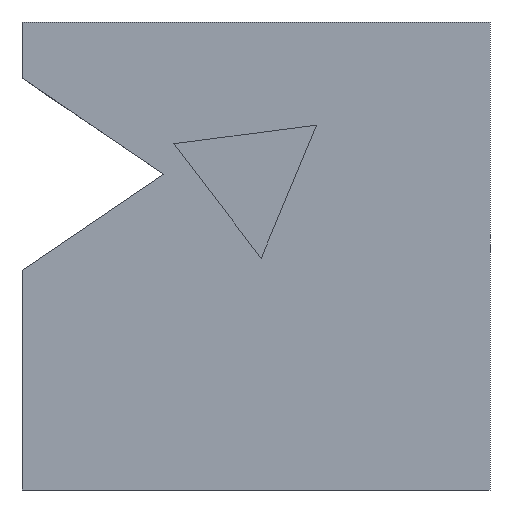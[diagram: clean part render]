
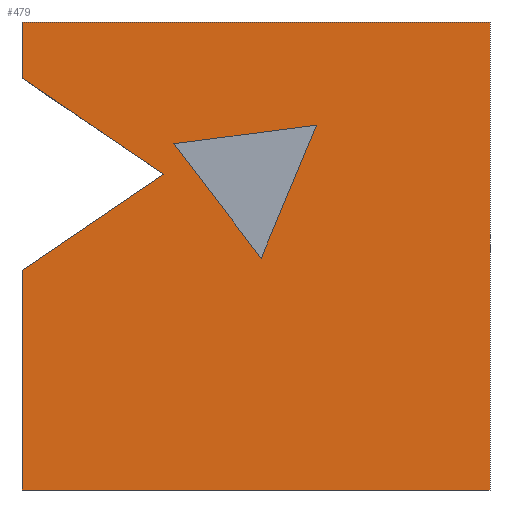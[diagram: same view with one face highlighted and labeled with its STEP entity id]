
A CAD part, front view. The second image highlights one B-rep face of the part: STEP entity #479.
In plain terms, the highlighted planar face has unit normal (0, -1, 0).
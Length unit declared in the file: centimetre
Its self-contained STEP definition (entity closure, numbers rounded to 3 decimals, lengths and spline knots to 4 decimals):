
#2 = ORIENTED_EDGE ( 'NONE', *, *, #276, .T. ) ;
#13 = LINE ( 'NONE', #549, #144 ) ;
#17 = EDGE_CURVE ( 'NONE', #418, #359, #523, .T. ) ;
#24 = FACE_OUTER_BOUND ( 'NONE', #452, .T. ) ;
#34 = EDGE_CURVE ( 'NONE', #188, #131, #358, .T. ) ;
#41 = DIRECTION ( 'NONE',  ( -0.992, 0., -0.129 ) ) ;
#51 = LINE ( 'NONE', #281, #416 ) ;
#63 = DIRECTION ( 'NONE',  ( 0., 0., 1. ) ) ;
#67 = DIRECTION ( 'NONE',  ( 0., 1., 0. ) ) ;
#82 = ORIENTED_EDGE ( 'NONE', *, *, #34, .T. ) ;
#92 = CARTESIAN_POINT ( 'NONE',  ( 0., 0., 469.5949 ) ) ;
#96 = VECTOR ( 'NONE', #201, 100. ) ;
#100 = CARTESIAN_POINT ( 'NONE',  ( 324.0875, 0., 739.8022 ) ) ;
#109 = VECTOR ( 'NONE', #370, 100. ) ;
#118 = EDGE_CURVE ( 'NONE', #131, #225, #121, .T. ) ;
#120 = ORIENTED_EDGE ( 'NONE', *, *, #401, .F. ) ;
#121 = LINE ( 'NONE', #556, #96 ) ;
#124 = CARTESIAN_POINT ( 'NONE',  ( 324.0875, 0., 739.8022 ) ) ;
#128 = LINE ( 'NONE', #92, #410 ) ;
#131 = VERTEX_POINT ( 'NONE', #333 ) ;
#136 = CARTESIAN_POINT ( 'NONE',  ( 302.9459, 0., 674.7699 ) ) ;
#144 = VECTOR ( 'NONE', #194, 100. ) ;
#150 = EDGE_CURVE ( 'NONE', #490, #319, #247, .T. ) ;
#166 = DIRECTION ( 'NONE',  ( 0., 0., -1. ) ) ;
#169 = VECTOR ( 'NONE', #520, 100. ) ;
#175 = ORIENTED_EDGE ( 'NONE', *, *, #325, .F. ) ;
#185 = ORIENTED_EDGE ( 'NONE', *, *, #17, .F. ) ;
#188 = VERTEX_POINT ( 'NONE', #526 ) ;
#192 = CARTESIAN_POINT ( 'NONE',  ( 629.176, 0., 779.6376 ) ) ;
#194 = DIRECTION ( 'NONE',  ( 0., 0., -1. ) ) ;
#201 = DIRECTION ( 'NONE',  ( 1., 0., 0. ) ) ;
#217 = LINE ( 'NONE', #577, #345 ) ;
#225 = VERTEX_POINT ( 'NONE', #403 ) ;
#227 = ORIENTED_EDGE ( 'NONE', *, *, #377, .T. ) ;
#241 = LINE ( 'NONE', #100, #109 ) ;
#242 = CARTESIAN_POINT ( 'NONE',  ( 1000., 0., 1000. ) ) ;
#245 = VECTOR ( 'NONE', #41, 100. ) ;
#247 = LINE ( 'NONE', #383, #169 ) ;
#249 = FACE_BOUND ( 'NONE', #446, .T. ) ;
#265 = CARTESIAN_POINT ( 'NONE',  ( 0., 0., 1000. ) ) ;
#269 = CARTESIAN_POINT ( 'NONE',  ( 511.1303, 0., 495.5055 ) ) ;
#276 = EDGE_CURVE ( 'NONE', #319, #188, #128, .T. ) ;
#281 = CARTESIAN_POINT ( 'NONE',  ( 1000., 0., 1000. ) ) ;
#285 = LINE ( 'NONE', #192, #245 ) ;
#302 = VERTEX_POINT ( 'NONE', #124 ) ;
#311 = VERTEX_POINT ( 'NONE', #580 ) ;
#319 = VERTEX_POINT ( 'NONE', #136 ) ;
#325 = EDGE_CURVE ( 'NONE', #311, #455, #217, .T. ) ;
#331 = PLANE ( 'NONE',  #395 ) ;
#333 = CARTESIAN_POINT ( 'NONE',  ( 0., 0., 0. ) ) ;
#345 = VECTOR ( 'NONE', #414, 100. ) ;
#350 = DIRECTION ( 'NONE',  ( 0.384, 0., 0.923 ) ) ;
#352 = DIRECTION ( 'NONE',  ( -0.828, 0., -0.561 ) ) ;
#358 = LINE ( 'NONE', #265, #512 ) ;
#359 = VERTEX_POINT ( 'NONE', #506 ) ;
#370 = DIRECTION ( 'NONE',  ( 0.608, 0., -0.794 ) ) ;
#377 = EDGE_CURVE ( 'NONE', #311, #490, #13, .T. ) ;
#383 = CARTESIAN_POINT ( 'NONE',  ( 302.9459, 0., 674.7699 ) ) ;
#390 = EDGE_CURVE ( 'NONE', #302, #418, #241, .T. ) ;
#395 = AXIS2_PLACEMENT_3D ( 'NONE', #424, #67, #63 ) ;
#401 = EDGE_CURVE ( 'NONE', #455, #225, #51, .T. ) ;
#403 = CARTESIAN_POINT ( 'NONE',  ( 1000., 0., 0. ) ) ;
#410 = VECTOR ( 'NONE', #352, 100. ) ;
#411 = ORIENTED_EDGE ( 'NONE', *, *, #118, .T. ) ;
#414 = DIRECTION ( 'NONE',  ( 1., 0., 0. ) ) ;
#416 = VECTOR ( 'NONE', #553, 100. ) ;
#418 = VERTEX_POINT ( 'NONE', #459 ) ;
#424 = CARTESIAN_POINT ( 'NONE',  ( 0., 0., 1000. ) ) ;
#443 = VECTOR ( 'NONE', #350, 100. ) ;
#446 = EDGE_LOOP ( 'NONE', ( #185, #498, #449 ) ) ;
#449 = ORIENTED_EDGE ( 'NONE', *, *, #461, .F. ) ;
#452 = EDGE_LOOP ( 'NONE', ( #485, #2, #82, #411, #120, #175, #227 ) ) ;
#455 = VERTEX_POINT ( 'NONE', #242 ) ;
#459 = CARTESIAN_POINT ( 'NONE',  ( 511.1303, 0., 495.5055 ) ) ;
#461 = EDGE_CURVE ( 'NONE', #359, #302, #285, .T. ) ;
#466 = CARTESIAN_POINT ( 'NONE',  ( 0., 0., 879.9449 ) ) ;
#479 = ADVANCED_FACE ( 'NONE', ( #249, #24 ), #331, .F. ) ;
#485 = ORIENTED_EDGE ( 'NONE', *, *, #150, .T. ) ;
#490 = VERTEX_POINT ( 'NONE', #466 ) ;
#498 = ORIENTED_EDGE ( 'NONE', *, *, #390, .F. ) ;
#506 = CARTESIAN_POINT ( 'NONE',  ( 629.176, 0., 779.6376 ) ) ;
#512 = VECTOR ( 'NONE', #166, 100. ) ;
#520 = DIRECTION ( 'NONE',  ( 0.828, 0., -0.561 ) ) ;
#523 = LINE ( 'NONE', #269, #443 ) ;
#526 = CARTESIAN_POINT ( 'NONE',  ( 0., 0., 469.5949 ) ) ;
#549 = CARTESIAN_POINT ( 'NONE',  ( 0., 0., 1000. ) ) ;
#553 = DIRECTION ( 'NONE',  ( 0., 0., -1. ) ) ;
#556 = CARTESIAN_POINT ( 'NONE',  ( 0., 0., 0. ) ) ;
#577 = CARTESIAN_POINT ( 'NONE',  ( 0., 0., 1000. ) ) ;
#580 = CARTESIAN_POINT ( 'NONE',  ( 0., 0., 1000. ) ) ;
